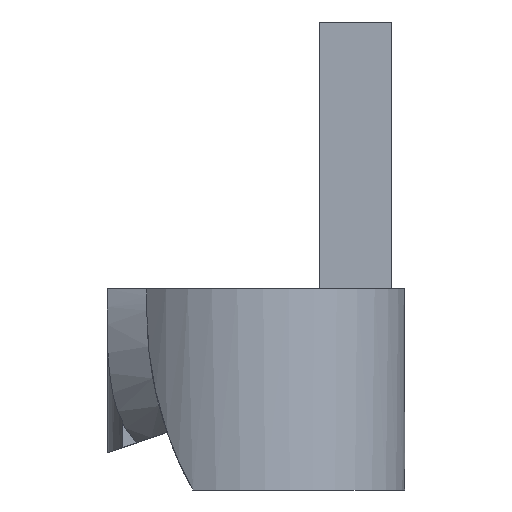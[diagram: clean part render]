
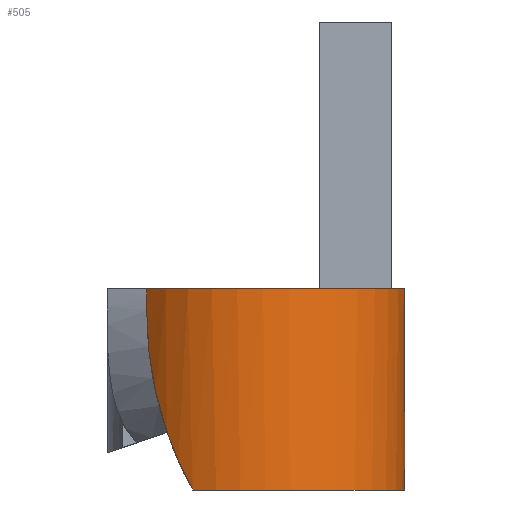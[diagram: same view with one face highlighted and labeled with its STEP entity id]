
A CAD part, front view. The second image highlights one B-rep face of the part: STEP entity #505.
In plain terms, the highlighted cylindrical face has radius 3.4 mm (diameter 6.8 mm), a partial arc.
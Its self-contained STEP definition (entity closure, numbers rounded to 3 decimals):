
#19=B_SPLINE_CURVE_WITH_KNOTS('',3,(#791,#792,#793,#794,#795,#796,#797,
#798,#799,#800,#801,#802,#803,#804,#805,#806,#807,#808,#809,#810,#811,#812,
#813,#814,#815,#816,#817,#818,#819,#820,#821,#822,#823,#824,#825,#826,#827,
#828,#829,#830,#831,#832,#833,#834,#835,#836,#837,#838,#839,#840,#841,#842),
 .UNSPECIFIED.,.F.,.F.,(4,3,3,3,3,3,3,3,3,3,3,3,3,3,3,3,3,4),(0.312,
0.346,0.379,0.395,0.433,0.451,
0.495,0.538,0.55,0.595,0.641,
0.69,0.74,0.791,0.845,
0.899,0.954,1.),.UNSPECIFIED.);
#20=B_SPLINE_CURVE_WITH_KNOTS('',8,(#848,#849,#850,#851,#852,#853,#854,
#855,#856,#857,#858,#859,#860,#861,#862,#863),.UNSPECIFIED.,.F.,.F.,(9,
7,9),(0.,0.753,1.),.UNSPECIFIED.);
#27=CYLINDRICAL_SURFACE('',#554,3.4);
#37=ELLIPSE('',#549,3.598,3.4);
#42=CIRCLE('',#544,3.4);
#44=CIRCLE('',#555,3.4);
#45=CIRCLE('',#556,3.4);
#62=FACE_OUTER_BOUND('',#89,.T.);
#89=EDGE_LOOP('',(#367,#368,#369,#370,#371,#372,#373,#374,#375));
#120=LINE('',#747,#166);
#134=LINE('',#846,#180);
#135=LINE('',#866,#181);
#166=VECTOR('',#600,1.);
#180=VECTOR('',#640,1.);
#181=VECTOR('',#643,1.);
#211=VERTEX_POINT('',#744);
#212=VERTEX_POINT('',#746);
#214=VERTEX_POINT('',#752);
#225=VERTEX_POINT('',#777);
#230=VERTEX_POINT('',#790);
#231=VERTEX_POINT('',#843);
#232=VERTEX_POINT('',#845);
#233=VERTEX_POINT('',#847);
#234=VERTEX_POINT('',#864);
#262=EDGE_CURVE('',#211,#212,#120,.T.);
#265=EDGE_CURVE('',#214,#212,#42,.T.);
#278=EDGE_CURVE('',#225,#211,#37,.T.);
#284=EDGE_CURVE('',#225,#230,#19,.T.);
#285=EDGE_CURVE('',#230,#231,#44,.T.);
#286=EDGE_CURVE('',#232,#231,#134,.T.);
#287=EDGE_CURVE('',#232,#233,#20,.T.);
#288=EDGE_CURVE('',#234,#233,#45,.T.);
#289=EDGE_CURVE('',#234,#214,#135,.T.);
#367=ORIENTED_EDGE('',*,*,#284,.T.);
#368=ORIENTED_EDGE('',*,*,#285,.T.);
#369=ORIENTED_EDGE('',*,*,#286,.F.);
#370=ORIENTED_EDGE('',*,*,#287,.T.);
#371=ORIENTED_EDGE('',*,*,#288,.F.);
#372=ORIENTED_EDGE('',*,*,#289,.T.);
#373=ORIENTED_EDGE('',*,*,#265,.T.);
#374=ORIENTED_EDGE('',*,*,#262,.F.);
#375=ORIENTED_EDGE('',*,*,#278,.F.);
#505=ADVANCED_FACE('',(#62),#27,.T.);
#544=AXIS2_PLACEMENT_3D('',#753,#605,#606);
#549=AXIS2_PLACEMENT_3D('',#779,#625,#626);
#554=AXIS2_PLACEMENT_3D('',#789,#636,#637);
#555=AXIS2_PLACEMENT_3D('',#844,#638,#639);
#556=AXIS2_PLACEMENT_3D('',#865,#641,#642);
#600=DIRECTION('',(0.,0.,1.));
#605=DIRECTION('center_axis',(0.,0.,1.));
#606=DIRECTION('ref_axis',(1.,0.,0.));
#625=DIRECTION('center_axis',(0.327,0.,-0.945));
#626=DIRECTION('ref_axis',(0.945,0.,0.327));
#636=DIRECTION('center_axis',(0.,0.,1.));
#637=DIRECTION('ref_axis',(0.92,0.391,0.));
#638=DIRECTION('center_axis',(0.,0.,-1.));
#639=DIRECTION('ref_axis',(-0.998,-0.059,0.));
#640=DIRECTION('',(0.,0.,1.));
#641=DIRECTION('center_axis',(0.,0.,-1.));
#642=DIRECTION('ref_axis',(0.678,0.735,0.));
#643=DIRECTION('',(0.,0.,1.));
#744=CARTESIAN_POINT('',(-37.304,-12.5,-16.874));
#746=CARTESIAN_POINT('',(-37.304,-12.5,-16.6));
#747=CARTESIAN_POINT('',(-37.304,-12.5,-18.1));
#752=CARTESIAN_POINT('',(-32.696,-12.5,-16.6));
#753=CARTESIAN_POINT('Origin',(-35.,-15.,-16.6));
#777=CARTESIAN_POINT('',(-37.737,-12.982,-17.024));
#779=CARTESIAN_POINT('Origin',(-35.,-15.,-16.077));
#789=CARTESIAN_POINT('Origin',(-35.,-15.,-18.1));
#790=CARTESIAN_POINT('',(-38.394,-15.201,-13.5));
#791=CARTESIAN_POINT('Ctrl Pts',(-37.737,-12.982,-17.024));
#792=CARTESIAN_POINT('Ctrl Pts',(-37.774,-13.033,-16.984));
#793=CARTESIAN_POINT('Ctrl Pts',(-37.809,-13.084,-16.943));
#794=CARTESIAN_POINT('Ctrl Pts',(-37.842,-13.134,-16.9));
#795=CARTESIAN_POINT('Ctrl Pts',(-37.876,-13.185,-16.858));
#796=CARTESIAN_POINT('Ctrl Pts',(-37.907,-13.236,-16.814));
#797=CARTESIAN_POINT('Ctrl Pts',(-37.937,-13.287,-16.768));
#798=CARTESIAN_POINT('Ctrl Pts',(-37.951,-13.311,-16.747));
#799=CARTESIAN_POINT('Ctrl Pts',(-37.964,-13.335,-16.725));
#800=CARTESIAN_POINT('Ctrl Pts',(-37.978,-13.359,-16.702));
#801=CARTESIAN_POINT('Ctrl Pts',(-38.009,-13.415,-16.651));
#802=CARTESIAN_POINT('Ctrl Pts',(-38.037,-13.471,-16.597));
#803=CARTESIAN_POINT('Ctrl Pts',(-38.064,-13.526,-16.542));
#804=CARTESIAN_POINT('Ctrl Pts',(-38.077,-13.554,-16.515));
#805=CARTESIAN_POINT('Ctrl Pts',(-38.09,-13.581,-16.486));
#806=CARTESIAN_POINT('Ctrl Pts',(-38.102,-13.609,-16.458));
#807=CARTESIAN_POINT('Ctrl Pts',(-38.131,-13.672,-16.392));
#808=CARTESIAN_POINT('Ctrl Pts',(-38.156,-13.735,-16.325));
#809=CARTESIAN_POINT('Ctrl Pts',(-38.179,-13.795,-16.256));
#810=CARTESIAN_POINT('Ctrl Pts',(-38.202,-13.856,-16.188));
#811=CARTESIAN_POINT('Ctrl Pts',(-38.223,-13.914,-16.118));
#812=CARTESIAN_POINT('Ctrl Pts',(-38.241,-13.972,-16.048));
#813=CARTESIAN_POINT('Ctrl Pts',(-38.246,-13.989,-16.026));
#814=CARTESIAN_POINT('Ctrl Pts',(-38.252,-14.006,-16.005));
#815=CARTESIAN_POINT('Ctrl Pts',(-38.257,-14.023,-15.983));
#816=CARTESIAN_POINT('Ctrl Pts',(-38.274,-14.082,-15.909));
#817=CARTESIAN_POINT('Ctrl Pts',(-38.29,-14.139,-15.833));
#818=CARTESIAN_POINT('Ctrl Pts',(-38.303,-14.193,-15.756));
#819=CARTESIAN_POINT('Ctrl Pts',(-38.317,-14.25,-15.677));
#820=CARTESIAN_POINT('Ctrl Pts',(-38.329,-14.305,-15.596));
#821=CARTESIAN_POINT('Ctrl Pts',(-38.339,-14.358,-15.514));
#822=CARTESIAN_POINT('Ctrl Pts',(-38.349,-14.413,-15.429));
#823=CARTESIAN_POINT('Ctrl Pts',(-38.358,-14.466,-15.342));
#824=CARTESIAN_POINT('Ctrl Pts',(-38.365,-14.517,-15.254));
#825=CARTESIAN_POINT('Ctrl Pts',(-38.373,-14.569,-15.164));
#826=CARTESIAN_POINT('Ctrl Pts',(-38.379,-14.619,-15.073));
#827=CARTESIAN_POINT('Ctrl Pts',(-38.384,-14.666,-14.981));
#828=CARTESIAN_POINT('Ctrl Pts',(-38.388,-14.714,-14.887));
#829=CARTESIAN_POINT('Ctrl Pts',(-38.392,-14.76,-14.792));
#830=CARTESIAN_POINT('Ctrl Pts',(-38.394,-14.803,-14.696));
#831=CARTESIAN_POINT('Ctrl Pts',(-38.397,-14.848,-14.596));
#832=CARTESIAN_POINT('Ctrl Pts',(-38.398,-14.89,-14.496));
#833=CARTESIAN_POINT('Ctrl Pts',(-38.399,-14.929,-14.395));
#834=CARTESIAN_POINT('Ctrl Pts',(-38.4,-14.969,-14.293));
#835=CARTESIAN_POINT('Ctrl Pts',(-38.4,-15.006,-14.189));
#836=CARTESIAN_POINT('Ctrl Pts',(-38.4,-15.04,-14.086));
#837=CARTESIAN_POINT('Ctrl Pts',(-38.399,-15.075,-13.98));
#838=CARTESIAN_POINT('Ctrl Pts',(-38.398,-15.107,-13.873));
#839=CARTESIAN_POINT('Ctrl Pts',(-38.397,-15.136,-13.766));
#840=CARTESIAN_POINT('Ctrl Pts',(-38.396,-15.16,-13.677));
#841=CARTESIAN_POINT('Ctrl Pts',(-38.395,-15.181,-13.589));
#842=CARTESIAN_POINT('Ctrl Pts',(-38.394,-15.201,-13.5));
#843=CARTESIAN_POINT('',(-37.5,-17.304,-13.5));
#844=CARTESIAN_POINT('Origin',(-35.,-15.,-13.5));
#845=CARTESIAN_POINT('',(-37.5,-17.304,-14.));
#846=CARTESIAN_POINT('',(-37.5,-17.304,-18.1));
#847=CARTESIAN_POINT('',(-36.446,-18.077,-18.1));
#848=CARTESIAN_POINT('Ctrl Pts',(-37.5,-17.304,-14.));
#849=CARTESIAN_POINT('Ctrl Pts',(-37.5,-17.304,-14.408));
#850=CARTESIAN_POINT('Ctrl Pts',(-37.478,-17.329,-14.81));
#851=CARTESIAN_POINT('Ctrl Pts',(-37.434,-17.376,-15.208));
#852=CARTESIAN_POINT('Ctrl Pts',(-37.369,-17.443,-15.603));
#853=CARTESIAN_POINT('Ctrl Pts',(-37.284,-17.527,-15.995));
#854=CARTESIAN_POINT('Ctrl Pts',(-37.176,-17.621,-16.383));
#855=CARTESIAN_POINT('Ctrl Pts',(-37.048,-17.72,-16.765));
#856=CARTESIAN_POINT('Ctrl Pts',(-36.851,-17.852,-17.26));
#857=CARTESIAN_POINT('Ctrl Pts',(-36.8,-17.885,-17.381));
#858=CARTESIAN_POINT('Ctrl Pts',(-36.747,-17.918,-17.502));
#859=CARTESIAN_POINT('Ctrl Pts',(-36.692,-17.951,-17.623));
#860=CARTESIAN_POINT('Ctrl Pts',(-36.634,-17.983,-17.743));
#861=CARTESIAN_POINT('Ctrl Pts',(-36.574,-18.015,-17.863));
#862=CARTESIAN_POINT('Ctrl Pts',(-36.511,-18.047,-17.982));
#863=CARTESIAN_POINT('Ctrl Pts',(-36.446,-18.077,-18.1));
#864=CARTESIAN_POINT('',(-32.696,-12.5,-18.1));
#865=CARTESIAN_POINT('Origin',(-35.,-15.,-18.1));
#866=CARTESIAN_POINT('',(-32.696,-12.5,-18.1));
